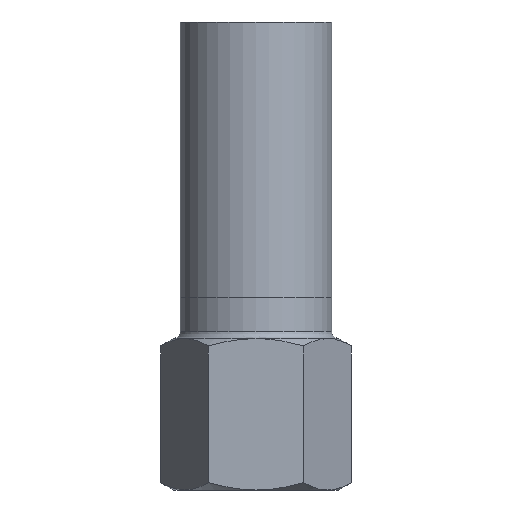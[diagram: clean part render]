
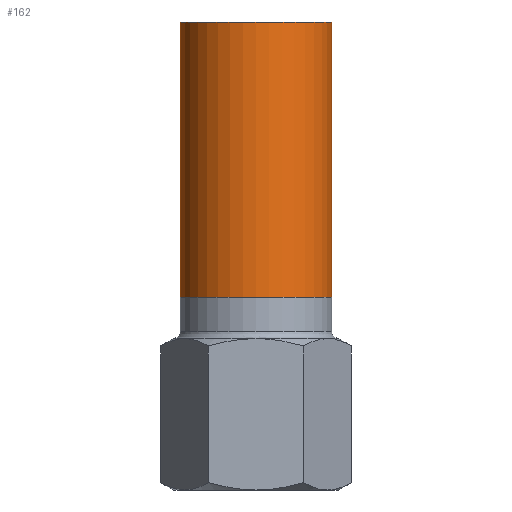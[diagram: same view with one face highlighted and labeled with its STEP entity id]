
A CAD part, front view. The second image highlights one B-rep face of the part: STEP entity #162.
In plain terms, the highlighted cylindrical face has radius 11 mm (diameter 22 mm), a full revolution.
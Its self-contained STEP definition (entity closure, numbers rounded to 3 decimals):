
#135=CARTESIAN_POINT('',(0.0,0.0,0.0));
#136=DIRECTION('',(0.0,0.0,1.0));
#137=DIRECTION('',(-1.0,0.0,0.0));
#138=AXIS2_PLACEMENT_3D('',#135,#136,#137);
#139=CYLINDRICAL_SURFACE('',#138,11.0);
#140=CARTESIAN_POINT('',(11.0,0.,40.0));
#141=VERTEX_POINT('',#140);
#142=CARTESIAN_POINT('',(0.0,0.0,40.0));
#143=DIRECTION('',(0.0,0.0,-1.0));
#144=DIRECTION('',(-1.0,0.0,0.0));
#145=AXIS2_PLACEMENT_3D('',#142,#143,#144);
#146=CIRCLE('',#145,11.0);
#147=EDGE_CURVE('',#141,#141,#146,.T.);
#148=ORIENTED_EDGE('',*,*,#147,.T.);
#149=EDGE_LOOP('',(#148));
#150=FACE_OUTER_BOUND('',#149,.T.);
#151=CARTESIAN_POINT('',(11.0,0.,0.0));
#152=VERTEX_POINT('',#151);
#153=CARTESIAN_POINT('',(0.0,0.0,0.0));
#154=DIRECTION('',(0.0,0.0,-1.0));
#155=DIRECTION('',(-1.0,0.0,0.0));
#156=AXIS2_PLACEMENT_3D('',#153,#154,#155);
#157=CIRCLE('',#156,11.0);
#158=EDGE_CURVE('',#152,#152,#157,.T.);
#159=ORIENTED_EDGE('',*,*,#158,.F.);
#160=EDGE_LOOP('',(#159));
#161=FACE_BOUND('',#160,.T.);
#162=ADVANCED_FACE('',(#150,#161),#139,.T.);
